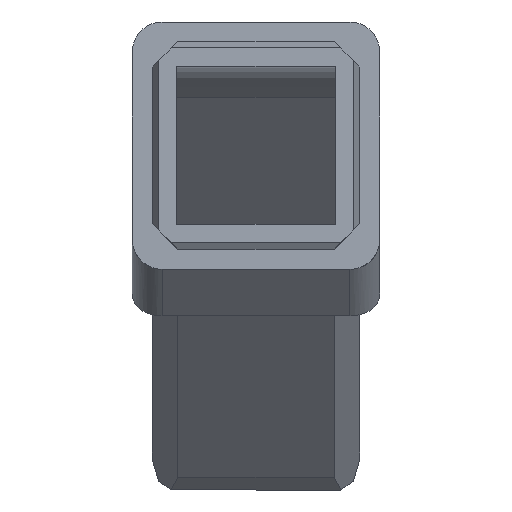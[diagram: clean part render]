
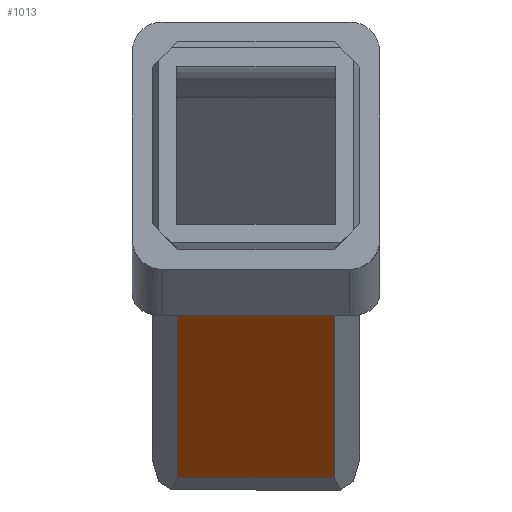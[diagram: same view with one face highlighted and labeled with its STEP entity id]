
A CAD part, top view. The second image highlights one B-rep face of the part: STEP entity #1013.
In plain terms, the highlighted planar face has unit normal (0, -0.707, 0.707).
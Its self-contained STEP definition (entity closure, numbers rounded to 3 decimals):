
#13 = FACE_OUTER_BOUND ( 'NONE', #258, .T. ) ;
#71 = CARTESIAN_POINT ( 'NONE',  ( 7.9, -33.46, -57.931 ) ) ;
#242 = VERTEX_POINT ( 'NONE', #841 ) ;
#246 = LINE ( 'NONE', #1575, #668 ) ;
#258 = EDGE_LOOP ( 'NONE', ( #1209, #1712, #1190, #471 ) ) ;
#304 = DIRECTION ( 'NONE',  ( 1., 0., 0. ) ) ;
#324 = DIRECTION ( 'NONE',  ( 0., -0.707, -0.707 ) ) ;
#349 = CARTESIAN_POINT ( 'NONE',  ( -7.9, -15.783, -40.253 ) ) ;
#356 = LINE ( 'NONE', #884, #1673 ) ;
#425 = PLANE ( 'NONE',  #575 ) ;
#471 = ORIENTED_EDGE ( 'NONE', *, *, #1574, .T. ) ;
#575 = AXIS2_PLACEMENT_3D ( 'NONE', #973, #1376, #324 ) ;
#652 = VECTOR ( 'NONE', #875, 1000. ) ;
#668 = VECTOR ( 'NONE', #1697, 1000. ) ;
#680 = VERTEX_POINT ( 'NONE', #749 ) ;
#682 = VERTEX_POINT ( 'NONE', #71 ) ;
#749 = CARTESIAN_POINT ( 'NONE',  ( -7.9, -33.46, -57.931 ) ) ;
#838 = LINE ( 'NONE', #1075, #1614 ) ;
#841 = CARTESIAN_POINT ( 'NONE',  ( 7.9, -15.783, -40.253 ) ) ;
#875 = DIRECTION ( 'NONE',  ( 0., -0.707, -0.707 ) ) ;
#884 = CARTESIAN_POINT ( 'NONE',  ( 10.5, -15.783, -40.253 ) ) ;
#928 = VERTEX_POINT ( 'NONE', #1044 ) ;
#973 = CARTESIAN_POINT ( 'NONE',  ( 10.5, -15.783, -40.253 ) ) ;
#1013 = ADVANCED_FACE ( 'NONE', ( #13 ), #425, .T. ) ;
#1044 = CARTESIAN_POINT ( 'NONE',  ( -7.9, -15.783, -40.253 ) ) ;
#1075 = CARTESIAN_POINT ( 'NONE',  ( 10.5, -33.46, -57.931 ) ) ;
#1190 = ORIENTED_EDGE ( 'NONE', *, *, #1383, .T. ) ;
#1209 = ORIENTED_EDGE ( 'NONE', *, *, #1278, .T. ) ;
#1278 = EDGE_CURVE ( 'NONE', #928, #680, #1545, .T. ) ;
#1376 = DIRECTION ( 'NONE',  ( 0., -0.707, 0.707 ) ) ;
#1383 = EDGE_CURVE ( 'NONE', #682, #242, #246, .T. ) ;
#1515 = EDGE_CURVE ( 'NONE', #680, #682, #838, .T. ) ;
#1545 = LINE ( 'NONE', #349, #652 ) ;
#1574 = EDGE_CURVE ( 'NONE', #242, #928, #356, .T. ) ;
#1575 = CARTESIAN_POINT ( 'NONE',  ( 7.9, -15.783, -40.253 ) ) ;
#1614 = VECTOR ( 'NONE', #304, 1000. ) ;
#1653 = DIRECTION ( 'NONE',  ( -1., 0., 0. ) ) ;
#1673 = VECTOR ( 'NONE', #1653, 1000. ) ;
#1697 = DIRECTION ( 'NONE',  ( 0., 0.707, 0.707 ) ) ;
#1712 = ORIENTED_EDGE ( 'NONE', *, *, #1515, .T. ) ;
